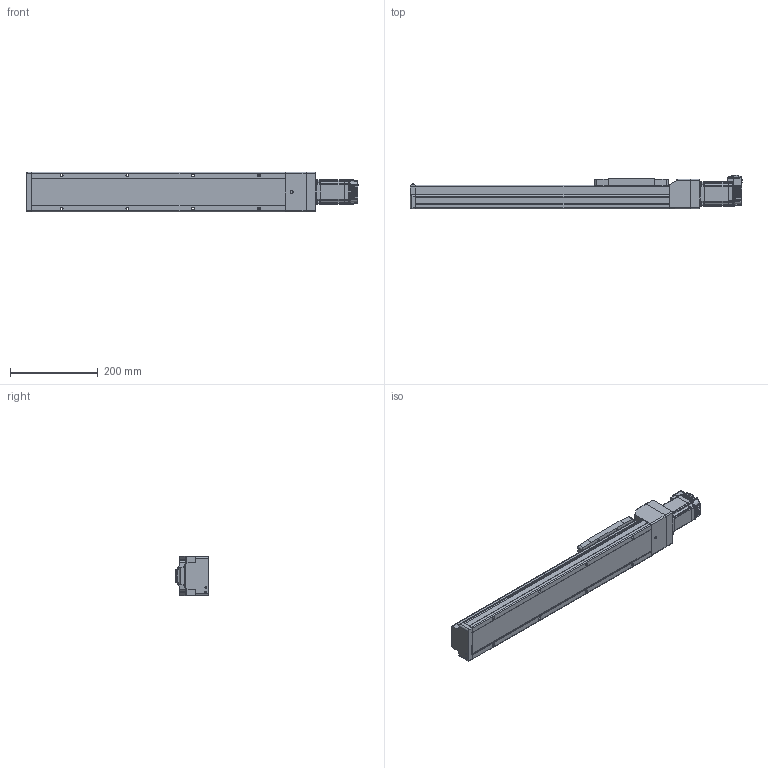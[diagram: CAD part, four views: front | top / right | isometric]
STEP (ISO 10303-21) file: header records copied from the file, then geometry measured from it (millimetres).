
FILE_DESCRIPTION (( 'STEP AP214' ), '1' );
FILE_NAME ('LEFS3(+)-40NM1仩-400-23L.STEP', '2023-06-02T05:08:45', ( '' ), ( '' ), 'SwSTEP 2.0', 'SolidWorks 2019', '' );
FILE_SCHEMA (( 'AUTOMOTIVE_DESIGN' ));
Length unit declared in the file: millimetre
Products named in the file (5): LEFS3(+)-40NM1_TABLE; LEFS3(+)-40NM1_Motor Flange; LEFS3(+)-40NM1仩-400-23L; CM3(+)-23L50A_4-M4; LEFS3(+)-40NM1?_BODY_400
Assembly tree (4 placements, depth 2):
  LEFS3(+)-40NM1仩-400-23L
    LEFS3(+)-40NM1?_BODY_400
    LEFS3(+)-40NM1_TABLE
    LEFS3(+)-40NM1_Motor Flange
    CM3(+)-23L50A_4-M4
Bounding box: 757.6 x 76.75 x 90 mm (x, y, z)
Volume: 3232245.8 mm3; surface area: 304942.2 mm2
Topology: 5 solids, 14 shells, 1650 faces, 4281 edges, 2648 vertices
Faces by surface type: plane 764, cylinder 515, bspline 133, cone 117, torus 74, sphere 47
Entity records: 55925 total; most frequent: CARTESIAN_POINT 13985, ORIENTED_EDGE 8412, DIRECTION 7838, EDGE_CURVE 4206, AXIS2_PLACEMENT_3D 2664, VERTEX_POINT 2648, VECTOR 2510, LINE 2510
